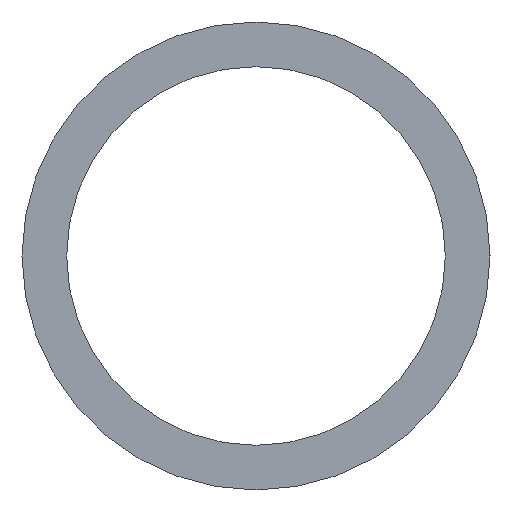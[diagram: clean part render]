
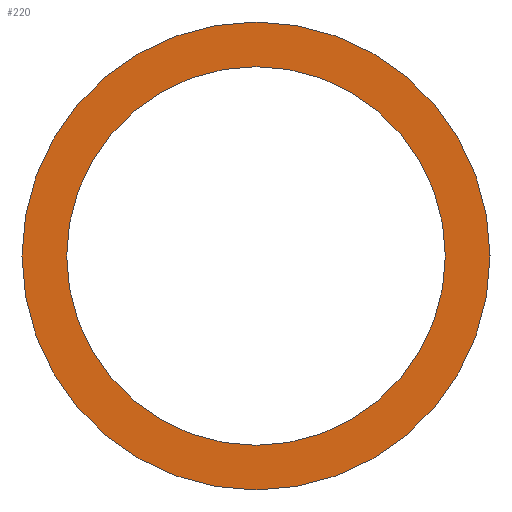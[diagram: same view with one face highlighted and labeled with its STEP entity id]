
A CAD part, left-side view. The second image highlights one B-rep face of the part: STEP entity #220.
In plain terms, the highlighted planar face has unit normal (-1, 0, 0).
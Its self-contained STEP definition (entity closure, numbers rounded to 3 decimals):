
#3 = CARTESIAN_POINT ( 'NONE',  ( 0., 0., 0. ) ) ;
#4 = DIRECTION ( 'NONE',  ( 1., 0., 0. ) ) ;
#5 = DIRECTION ( 'NONE',  ( 0., 0., -1. ) ) ;
#17 = CARTESIAN_POINT ( 'NONE',  ( 0., 0., 0. ) ) ;
#18 = DIRECTION ( 'NONE',  ( 1., 0., 0. ) ) ;
#19 = DIRECTION ( 'NONE',  ( 0., 0., -1. ) ) ;
#39 = CARTESIAN_POINT ( 'NONE',  ( 0., 0., 0. ) ) ;
#40 = DIRECTION ( 'NONE',  ( 1., 0., 0. ) ) ;
#41 = DIRECTION ( 'NONE',  ( 0., 0., -1. ) ) ;
#45 = CARTESIAN_POINT ( 'NONE',  ( 0., 0., 0. ) ) ;
#46 = DIRECTION ( 'NONE',  ( 1., 0., 0. ) ) ;
#47 = DIRECTION ( 'NONE',  ( 0., 0., -1. ) ) ;
#113 = AXIS2_PLACEMENT_3D ( 'NONE', #39, #40, #41 ) ;
#114 = CIRCLE ( 'NONE', #113, 45.2 ) ;
#115 = VERTEX_POINT ( 'NONE', #158 ) ;
#117 = VERTEX_POINT ( 'NONE', #156 ) ;
#120 = VERTEX_POINT ( 'NONE', #188 ) ;
#150 = EDGE_LOOP ( 'NONE', ( #166, #167 ) ) ;
#151 = CARTESIAN_POINT ( 'NONE',  ( 0., 0., -45.2 ) ) ;
#152 = CARTESIAN_POINT ( 'NONE',  ( 0., 0., 0. ) ) ;
#153 = FACE_OUTER_BOUND ( 'NONE', #150, .T. ) ;
#156 = CARTESIAN_POINT ( 'NONE',  ( 0., 0., -36.575 ) ) ;
#158 = CARTESIAN_POINT ( 'NONE',  ( 0., 0., 45.2 ) ) ;
#166 = ORIENTED_EDGE ( 'NONE', *, *, #233, .F. ) ;
#167 = ORIENTED_EDGE ( 'NONE', *, *, #235, .F. ) ;
#168 = ORIENTED_EDGE ( 'NONE', *, *, #227, .T. ) ;
#169 = ORIENTED_EDGE ( 'NONE', *, *, #223, .T. ) ;
#184 = FACE_BOUND ( 'NONE', #190, .T. ) ;
#185 = PLANE ( 'NONE',  #204 ) ;
#188 = CARTESIAN_POINT ( 'NONE',  ( 0., 0., 36.575 ) ) ;
#190 = EDGE_LOOP ( 'NONE', ( #168, #169 ) ) ;
#193 = VERTEX_POINT ( 'NONE', #151 ) ;
#199 = AXIS2_PLACEMENT_3D ( 'NONE', #45, #46, #47 ) ;
#200 = CIRCLE ( 'NONE', #203, 36.575 ) ;
#203 = AXIS2_PLACEMENT_3D ( 'NONE', #3, #4, #5 ) ;
#204 = AXIS2_PLACEMENT_3D ( 'NONE', #152, #243, #244 ) ;
#205 = AXIS2_PLACEMENT_3D ( 'NONE', #17, #18, #19 ) ;
#214 = CIRCLE ( 'NONE', #205, 36.575 ) ;
#215 = CIRCLE ( 'NONE', #199, 45.2 ) ;
#220 = ADVANCED_FACE ( 'NONE', ( #153, #184 ), #185, .F. ) ;
#223 = EDGE_CURVE ( 'NONE', #117, #120, #200, .T. ) ;
#227 = EDGE_CURVE ( 'NONE', #120, #117, #214, .T. ) ;
#233 = EDGE_CURVE ( 'NONE', #115, #193, #114, .T. ) ;
#235 = EDGE_CURVE ( 'NONE', #193, #115, #215, .T. ) ;
#243 = DIRECTION ( 'NONE',  ( 1., 0., 0. ) ) ;
#244 = DIRECTION ( 'NONE',  ( 0., 0., -1. ) ) ;
